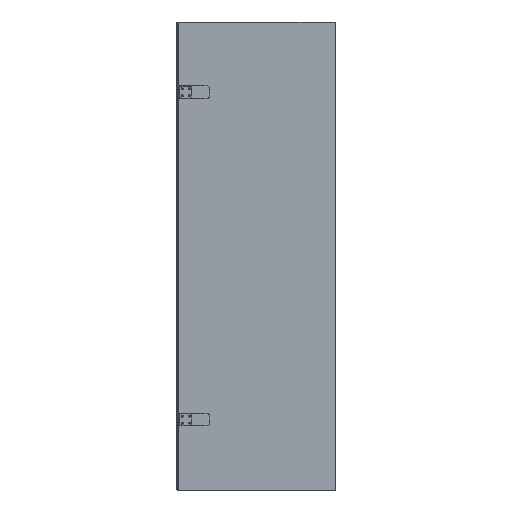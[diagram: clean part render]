
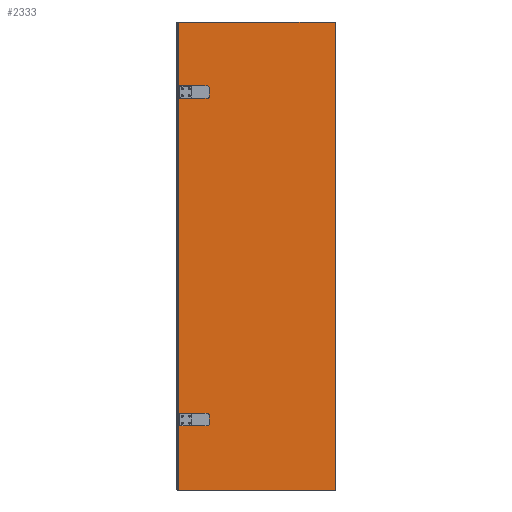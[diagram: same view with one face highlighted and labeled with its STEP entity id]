
A CAD part, front view. The second image highlights one B-rep face of the part: STEP entity #2333.
In plain terms, the highlighted planar face has unit normal (0, -1, 0).
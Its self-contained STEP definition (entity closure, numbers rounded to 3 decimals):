
#237=LINE($,#3420,#443);
#244=LINE($,#3438,#450);
#246=LINE($,#3441,#452);
#248=LINE($,#3444,#454);
#309=LINE($,#3637,#515);
#316=LINE($,#3655,#522);
#318=LINE($,#3658,#524);
#320=LINE($,#3661,#526);
#335=LINE($,#3703,#541);
#370=LINE($,#3798,#576);
#374=LINE($,#3809,#580);
#375=LINE($,#3814,#581);
#378=LINE($,#3818,#584);
#379=LINE($,#3820,#585);
#380=LINE($,#3822,#586);
#381=LINE($,#3824,#587);
#382=LINE($,#3825,#588);
#443=VECTOR($,#2757,40.);
#450=VECTOR($,#2772,40.);
#452=VECTOR($,#2776,34.);
#454=VECTOR($,#2780,52.);
#515=VECTOR($,#2975,40.);
#522=VECTOR($,#2990,40.);
#524=VECTOR($,#2994,34.);
#526=VECTOR($,#2998,52.);
#541=VECTOR($,#3039,2000.);
#576=VECTOR($,#3124,2000.);
#580=VECTOR($,#3134,2000.);
#581=VECTOR($,#3143,2.557);
#584=VECTOR($,#3148,2.443);
#585=VECTOR($,#3149,1.);
#586=VECTOR($,#3150,676.);
#587=VECTOR($,#3151,2001.);
#588=VECTOR($,#3152,671.);
#633=FACE_BOUND($,#779,.T.);
#634=FACE_BOUND($,#780,.T.);
#635=FACE_BOUND($,#781,.T.);
#779=EDGE_LOOP($,(#1909,#1910,#1911,#1912,#1913,#1914));
#780=EDGE_LOOP($,(#1915,#1916,#1917,#1918,#1919,#1920));
#781=EDGE_LOOP($,(#1921,#1922,#1923,#1924,#1925,#1926,#1927,#1928,#1929));
#860=CIRCLE($,#2423,9.);
#862=CIRCLE($,#2427,9.);
#892=CIRCLE($,#2496,9.);
#894=CIRCLE($,#2500,9.);
#980=VERTEX_POINT($,#3413);
#981=VERTEX_POINT($,#3415);
#982=VERTEX_POINT($,#3419);
#986=VERTEX_POINT($,#3428);
#987=VERTEX_POINT($,#3430);
#989=VERTEX_POINT($,#3436);
#1052=VERTEX_POINT($,#3630);
#1053=VERTEX_POINT($,#3632);
#1054=VERTEX_POINT($,#3636);
#1058=VERTEX_POINT($,#3645);
#1059=VERTEX_POINT($,#3647);
#1061=VERTEX_POINT($,#3653);
#1074=VERTEX_POINT($,#3701);
#1075=VERTEX_POINT($,#3702);
#1109=VERTEX_POINT($,#3796);
#1110=VERTEX_POINT($,#3797);
#1113=VERTEX_POINT($,#3805);
#1114=VERTEX_POINT($,#3807);
#1115=VERTEX_POINT($,#3819);
#1116=VERTEX_POINT($,#3821);
#1117=VERTEX_POINT($,#3823);
#1210=EDGE_CURVE($,#981,#980,#860,.T.);
#1212=EDGE_CURVE($,#982,#981,#237,.T.);
#1217=EDGE_CURVE($,#987,#986,#862,.T.);
#1221=EDGE_CURVE($,#986,#989,#244,.T.);
#1223=EDGE_CURVE($,#980,#987,#246,.T.);
#1225=EDGE_CURVE($,#989,#982,#248,.T.);
#1314=EDGE_CURVE($,#1053,#1052,#892,.T.);
#1316=EDGE_CURVE($,#1054,#1053,#309,.T.);
#1321=EDGE_CURVE($,#1059,#1058,#894,.T.);
#1325=EDGE_CURVE($,#1058,#1061,#316,.T.);
#1327=EDGE_CURVE($,#1052,#1059,#318,.T.);
#1329=EDGE_CURVE($,#1061,#1054,#320,.T.);
#1348=EDGE_CURVE($,#1074,#1075,#335,.T.);
#1394=EDGE_CURVE($,#1109,#1110,#370,.T.);
#1400=EDGE_CURVE($,#1114,#1113,#374,.T.);
#1403=EDGE_CURVE($,#1075,#1109,#375,.T.);
#1406=EDGE_CURVE($,#1110,#1113,#378,.T.);
#1407=EDGE_CURVE($,#1115,#1114,#379,.T.);
#1408=EDGE_CURVE($,#1116,#1115,#380,.T.);
#1409=EDGE_CURVE($,#1116,#1117,#381,.T.);
#1410=EDGE_CURVE($,#1117,#1074,#382,.T.);
#1909=ORIENTED_EDGE($,*,*,#1217,.T.);
#1910=ORIENTED_EDGE($,*,*,#1221,.T.);
#1911=ORIENTED_EDGE($,*,*,#1225,.T.);
#1912=ORIENTED_EDGE($,*,*,#1212,.T.);
#1913=ORIENTED_EDGE($,*,*,#1210,.T.);
#1914=ORIENTED_EDGE($,*,*,#1223,.T.);
#1915=ORIENTED_EDGE($,*,*,#1321,.T.);
#1916=ORIENTED_EDGE($,*,*,#1325,.T.);
#1917=ORIENTED_EDGE($,*,*,#1329,.T.);
#1918=ORIENTED_EDGE($,*,*,#1316,.T.);
#1919=ORIENTED_EDGE($,*,*,#1314,.T.);
#1920=ORIENTED_EDGE($,*,*,#1327,.T.);
#1921=ORIENTED_EDGE($,*,*,#1348,.T.);
#1922=ORIENTED_EDGE($,*,*,#1403,.T.);
#1923=ORIENTED_EDGE($,*,*,#1394,.T.);
#1924=ORIENTED_EDGE($,*,*,#1406,.T.);
#1925=ORIENTED_EDGE($,*,*,#1400,.F.);
#1926=ORIENTED_EDGE($,*,*,#1407,.F.);
#1927=ORIENTED_EDGE($,*,*,#1408,.F.);
#1928=ORIENTED_EDGE($,*,*,#1409,.T.);
#1929=ORIENTED_EDGE($,*,*,#1410,.T.);
#2104=PLANE($,#2549);
#2333=ADVANCED_FACE($,(#633,#634,#635),#2104,.T.);
#2423=AXIS2_PLACEMENT_3D($,#3416,#2752,#2753);
#2427=AXIS2_PLACEMENT_3D($,#3431,#2765,#2766);
#2496=AXIS2_PLACEMENT_3D($,#3633,#2970,#2971);
#2500=AXIS2_PLACEMENT_3D($,#3648,#2983,#2984);
#2549=AXIS2_PLACEMENT_3D($,#3817,#3146,#3147);
#2752=DIRECTION('center_axis',(0.,1.,0.));
#2753=DIRECTION('ref_axis',(0.707,0.,0.707));
#2757=DIRECTION($,(1.,0.,0.));
#2765=DIRECTION('center_axis',(0.,1.,0.));
#2766=DIRECTION('ref_axis',(0.707,0.,-0.707));
#2772=DIRECTION($,(-1.,0.,0.));
#2776=DIRECTION($,(0.,0.,-1.));
#2780=DIRECTION($,(0.,0.,1.));
#2970=DIRECTION('center_axis',(0.,1.,0.));
#2971=DIRECTION('ref_axis',(0.707,0.,0.707));
#2975=DIRECTION($,(1.,0.,0.));
#2983=DIRECTION('center_axis',(0.,1.,0.));
#2984=DIRECTION('ref_axis',(0.707,0.,-0.707));
#2990=DIRECTION($,(-1.,0.,0.));
#2994=DIRECTION($,(0.,0.,-1.));
#2998=DIRECTION($,(0.,0.,1.));
#3039=DIRECTION($,(0.,0.,-1.));
#3124=DIRECTION($,(0.,0.,1.));
#3134=DIRECTION($,(0.,0.,1.));
#3143=DIRECTION($,(-1.,0.,0.));
#3146=DIRECTION('center_axis',(0.,-1.,0.));
#3147=DIRECTION('ref_axis',(0.,0.,1.));
#3148=DIRECTION($,(-1.,0.,0.));
#3149=DIRECTION($,(0.,0.,1.));
#3150=DIRECTION($,(-1.,0.,0.));
#3151=DIRECTION($,(0.,0.,1.));
#3152=DIRECTION($,(-1.,0.,0.));
#3413=CARTESIAN_POINT('',(641.305,-44.044,1202.944));
#3415=CARTESIAN_POINT('',(632.305,-44.044,1211.944));
#3416=CARTESIAN_POINT('Origin',(632.305,-44.044,1202.944));
#3419=CARTESIAN_POINT('',(592.305,-44.044,1211.944));
#3420=CARTESIAN_POINT($,(886.305,-44.044,1211.944));
#3428=CARTESIAN_POINT('',(632.305,-44.044,1159.944));
#3430=CARTESIAN_POINT('',(641.305,-44.044,1168.944));
#3431=CARTESIAN_POINT('Origin',(632.305,-44.044,1168.944));
#3436=CARTESIAN_POINT('',(592.305,-44.044,1159.944));
#3438=CARTESIAN_POINT($,(897.805,-44.044,1159.944));
#3441=CARTESIAN_POINT($,(641.305,-44.044,322.444));
#3444=CARTESIAN_POINT($,(592.305,-44.044,322.444));
#3630=CARTESIAN_POINT('',(641.305,-44.044,-197.056));
#3632=CARTESIAN_POINT('',(632.305,-44.044,-188.056));
#3633=CARTESIAN_POINT('Origin',(632.305,-44.044,-197.056));
#3636=CARTESIAN_POINT('',(592.305,-44.044,-188.056));
#3637=CARTESIAN_POINT($,(886.305,-44.044,-188.056));
#3645=CARTESIAN_POINT('',(632.305,-44.044,-240.056));
#3647=CARTESIAN_POINT('',(641.305,-44.044,-231.056));
#3648=CARTESIAN_POINT('Origin',(632.305,-44.044,-231.056));
#3653=CARTESIAN_POINT('',(592.305,-44.044,-240.056));
#3655=CARTESIAN_POINT($,(897.805,-44.044,-240.056));
#3658=CARTESIAN_POINT($,(641.305,-44.044,-377.556));
#3661=CARTESIAN_POINT($,(592.305,-44.044,-377.556));
#3701=CARTESIAN_POINT('',(509.305,-44.044,1485.944));
#3702=CARTESIAN_POINT('',(509.305,-44.044,-514.056));
#3703=CARTESIAN_POINT($,(509.305,-44.044,485.444));
#3796=CARTESIAN_POINT('',(506.748,-44.044,-514.056));
#3797=CARTESIAN_POINT('',(506.748,-44.044,1485.944));
#3798=CARTESIAN_POINT($,(506.748,-44.044,485.444));
#3805=CARTESIAN_POINT('',(504.305,-44.044,1485.944));
#3807=CARTESIAN_POINT('',(504.305,-44.044,-514.056));
#3809=CARTESIAN_POINT($,(504.305,-44.044,-515.056));
#3814=CARTESIAN_POINT($,(841.905,-44.044,-514.056));
#3817=CARTESIAN_POINT('Origin',(1180.305,-44.044,-515.056));
#3818=CARTESIAN_POINT($,(1180.305,-44.044,1485.944));
#3819=CARTESIAN_POINT('',(504.305,-44.044,-515.056));
#3820=CARTESIAN_POINT($,(504.305,-44.044,-515.056));
#3821=CARTESIAN_POINT('',(1180.305,-44.044,-515.056));
#3822=CARTESIAN_POINT($,(1180.305,-44.044,-515.056));
#3823=CARTESIAN_POINT('',(1180.305,-44.044,1485.944));
#3824=CARTESIAN_POINT($,(1180.305,-44.044,-515.056));
#3825=CARTESIAN_POINT($,(1180.305,-44.044,1485.944));
